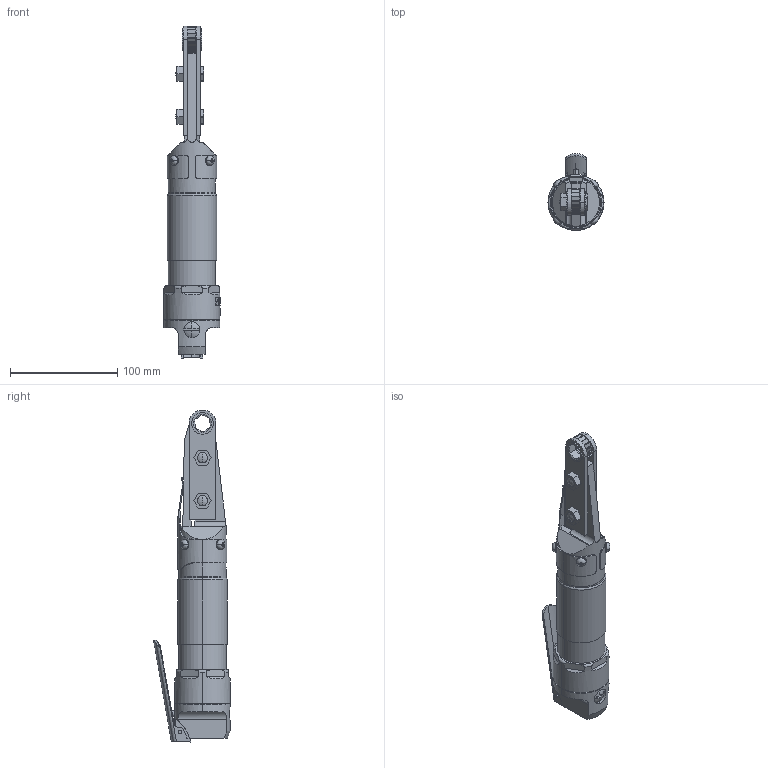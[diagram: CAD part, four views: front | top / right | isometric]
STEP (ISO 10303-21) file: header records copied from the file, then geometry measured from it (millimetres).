
FILE_DESCRIPTION (( 'STEP AP203' ), '1' );
FILE_NAME ('URW-8N.STEP', '2006-02-14T23:56:48', ( '' ), ( '' ), 'SwSTEP 2.0', 'SolidWorks 2004073', '' );
FILE_SCHEMA (( 'CONFIG_CONTROL_DESIGN' ));
Length unit declared in the file: millimetre
Products named in the file (7): 2126561_蹬怮椔; 0201071_蹬怮椔; URW-8N; 2013811_蹬怮椔; 2010251_蹬怮椔; 2010141_蹬怮椔; 2011041_蹬怮椔
Assembly tree (6 placements, depth 2):
  URW-8N
    2126561_蹬怮椔
    2011041_蹬怮椔
    0201071_蹬怮椔
    2010251_蹬怮椔
    2013811_蹬怮椔
    2010141_蹬怮椔
Bounding box: 52.2 x 71.58 x 309.41 mm (x, y, z)
Volume: 373443.5 mm3; surface area: 64175 mm2
Topology: 6 solids, 6 shells, 577 faces, 1539 edges, 1016 vertices
Faces by surface type: plane 330, cylinder 161, bspline 50, torus 22, cone 8, sphere 6
Entity records: 23221 total; most frequent: CARTESIAN_POINT 8573, ORIENTED_EDGE 3078, DIRECTION 2658, EDGE_CURVE 1539, VERTEX_POINT 1016, AXIS2_PLACEMENT_3D 909, VECTOR 840, LINE 840
